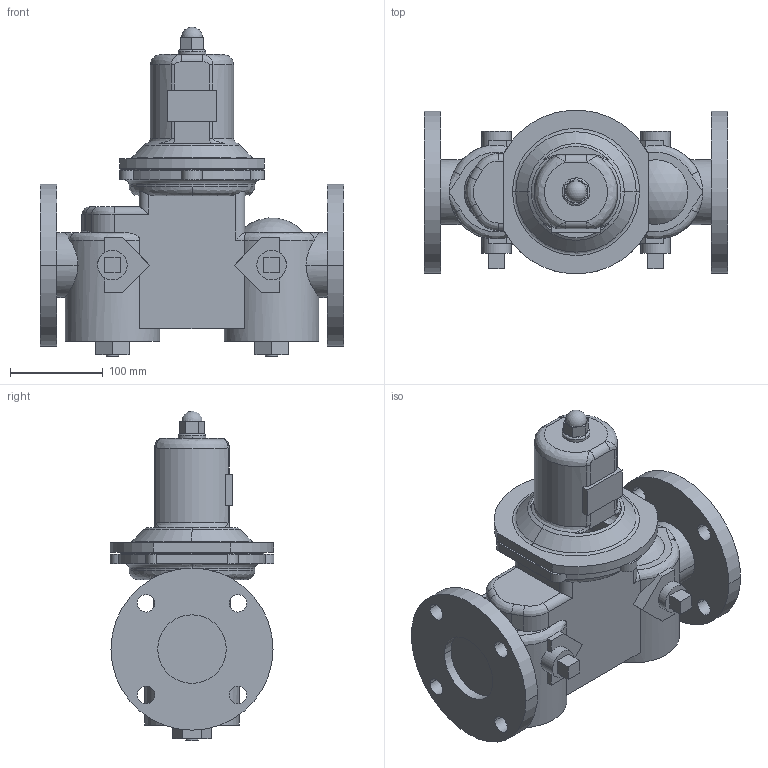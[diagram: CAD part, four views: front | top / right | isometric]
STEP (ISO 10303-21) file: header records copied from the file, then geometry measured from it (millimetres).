
FILE_DESCRIPTION( (''), '2;1');
FILE_NAME ('PC1027.4860.GD-27BP 65A_16050.stp','2025-07-25T16:39:40',(''),(''),'spGate 19.8.4 (****-****-****-****)','','');
FILE_SCHEMA (('AUTOMOTIVE_DESIGN'));
Length unit declared in the file: millimetre
Products named in the file (2): Assembly; GD-27BP 65A
Assembly tree (1 placements, depth 2):
  Assembly
    GD-27BP 65A
Bounding box: 328 x 176.92 x 355.92 mm (x, y, z)
Volume: 5641319.4 mm3; surface area: 364841.3 mm2
Topology: 1 solids, 1 shells, 255 faces, 674 edges, 431 vertices
Faces by surface type: plane 120, cylinder 93, bspline 39, sphere 3
Entity records: 16885 total; most frequent: CARTESIAN_POINT 5572, ORIENTED_EDGE 1332, DIRECTION 1193, COLOUR_RGB 922, PRESENTATION_STYLE_ASSIGNMENT 922, STYLED_ITEM 922, EDGE_CURVE 666, DRAUGHTING_PRE_DEFINED_CURVE_FONT 666
